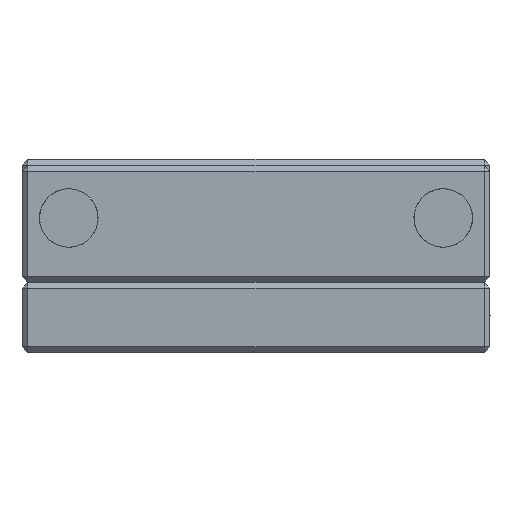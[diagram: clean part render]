
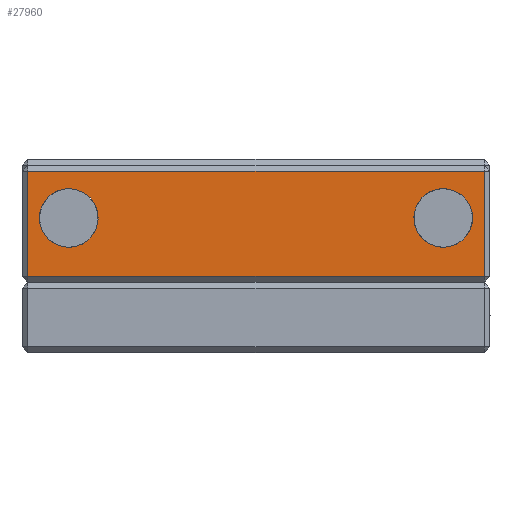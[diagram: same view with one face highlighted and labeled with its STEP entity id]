
A CAD part, left-side view. The second image highlights one B-rep face of the part: STEP entity #27960.
In plain terms, the highlighted planar face has unit normal (-1, 0, 0) as drawn and (1, 0, 0) by its records, which use the part's own axes.
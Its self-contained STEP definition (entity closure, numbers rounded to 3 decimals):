
#798 = CIRCLE ( 'NONE', #5439, 2.5 ) ;
#846 = ORIENTED_EDGE ( 'NONE', *, *, #34027, .F. ) ;
#1907 = LINE ( 'NONE', #41379, #13199 ) ;
#3244 = CARTESIAN_POINT ( 'NONE',  ( 7.5, -16., 8. ) ) ;
#3543 = LINE ( 'NONE', #17244, #40970 ) ;
#3885 = VECTOR ( 'NONE', #33720, 1000. ) ;
#4164 = EDGE_CURVE ( 'NONE', #27125, #31668, #44252, .T. ) ;
#4233 = VERTEX_POINT ( 'NONE', #25929 ) ;
#5218 = DIRECTION ( 'NONE',  ( 0., 0., 1. ) ) ;
#5439 = AXIS2_PLACEMENT_3D ( 'NONE', #46701, #18407, #35875 ) ;
#5658 = EDGE_LOOP ( 'NONE', ( #33536, #40785 ) ) ;
#7109 = CARTESIAN_POINT ( 'NONE',  ( 7.5, -16., 5.5 ) ) ;
#8496 = CARTESIAN_POINT ( 'NONE',  ( 7.5, 19.5, 0.5 ) ) ;
#8748 = ORIENTED_EDGE ( 'NONE', *, *, #27725, .F. ) ;
#9147 = DIRECTION ( 'NONE',  ( -1., 0., 0. ) ) ;
#9546 = ORIENTED_EDGE ( 'NONE', *, *, #24507, .F. ) ;
#10894 = FACE_BOUND ( 'NONE', #43526, .T. ) ;
#11075 = EDGE_CURVE ( 'NONE', #4233, #13813, #26014, .T. ) ;
#12686 = AXIS2_PLACEMENT_3D ( 'NONE', #7109, #39598, #14367 ) ;
#12925 = DIRECTION ( 'NONE',  ( 0., 0., 1. ) ) ;
#13128 = VERTEX_POINT ( 'NONE', #20734 ) ;
#13199 = VECTOR ( 'NONE', #24721, 1000. ) ;
#13232 = DIRECTION ( 'NONE',  ( 0., 0., 1. ) ) ;
#13484 = LINE ( 'NONE', #41130, #3885 ) ;
#13761 = CARTESIAN_POINT ( 'NONE',  ( 7.5, -19.5, 9.5 ) ) ;
#13813 = VERTEX_POINT ( 'NONE', #3244 ) ;
#13820 = CARTESIAN_POINT ( 'NONE',  ( 7.5, 19.5, 9.5 ) ) ;
#14237 = EDGE_CURVE ( 'NONE', #13813, #4233, #42725, .T. ) ;
#14367 = DIRECTION ( 'NONE',  ( 0., 0., 1. ) ) ;
#14814 = VERTEX_POINT ( 'NONE', #13761 ) ;
#14859 = FACE_OUTER_BOUND ( 'NONE', #39211, .T. ) ;
#16129 = PLANE ( 'NONE',  #24003 ) ;
#16273 = DIRECTION ( 'NONE',  ( 1., 0., 0. ) ) ;
#17244 = CARTESIAN_POINT ( 'NONE',  ( 7.5, 19.5, 10. ) ) ;
#18407 = DIRECTION ( 'NONE',  ( 1., 0., 0. ) ) ;
#20734 = CARTESIAN_POINT ( 'NONE',  ( 7.5, 16., 8. ) ) ;
#21368 = DIRECTION ( 'NONE',  ( 0., 0., -1. ) ) ;
#23640 = CARTESIAN_POINT ( 'NONE',  ( 7.5, -19.5, 0.5 ) ) ;
#23728 = DIRECTION ( 'NONE',  ( 1., 0., 0. ) ) ;
#24003 = AXIS2_PLACEMENT_3D ( 'NONE', #40376, #9147, #5218 ) ;
#24042 = CARTESIAN_POINT ( 'NONE',  ( 7.5, 16., 3. ) ) ;
#24507 = EDGE_CURVE ( 'NONE', #42831, #13128, #798, .T. ) ;
#24721 = DIRECTION ( 'NONE',  ( 0., 1., 0. ) ) ;
#25052 = VECTOR ( 'NONE', #28152, 1000. ) ;
#25764 = ORIENTED_EDGE ( 'NONE', *, *, #39381, .F. ) ;
#25929 = CARTESIAN_POINT ( 'NONE',  ( 7.5, -16., 3. ) ) ;
#26014 = CIRCLE ( 'NONE', #12686, 2.5 ) ;
#27125 = VERTEX_POINT ( 'NONE', #8496 ) ;
#27725 = EDGE_CURVE ( 'NONE', #43469, #27125, #3543, .T. ) ;
#27960 = ADVANCED_FACE ( 'NONE', ( #10894, #39849, #14859 ), #16129, .F. ) ;
#28028 = ORIENTED_EDGE ( 'NONE', *, *, #4164, .F. ) ;
#28152 = DIRECTION ( 'NONE',  ( 0., -1., 0. ) ) ;
#31668 = VERTEX_POINT ( 'NONE', #23640 ) ;
#33536 = ORIENTED_EDGE ( 'NONE', *, *, #14237, .F. ) ;
#33720 = DIRECTION ( 'NONE',  ( 0., 0., 1. ) ) ;
#33821 = EDGE_CURVE ( 'NONE', #14814, #43469, #1907, .T. ) ;
#34027 = EDGE_CURVE ( 'NONE', #13128, #42831, #42116, .T. ) ;
#35875 = DIRECTION ( 'NONE',  ( 0., 0., 1. ) ) ;
#38597 = ORIENTED_EDGE ( 'NONE', *, *, #33821, .F. ) ;
#39211 = EDGE_LOOP ( 'NONE', ( #28028, #8748, #38597, #25764 ) ) ;
#39381 = EDGE_CURVE ( 'NONE', #31668, #14814, #13484, .T. ) ;
#39598 = DIRECTION ( 'NONE',  ( 1., 0., 0. ) ) ;
#39849 = FACE_BOUND ( 'NONE', #5658, .T. ) ;
#40261 = AXIS2_PLACEMENT_3D ( 'NONE', #41631, #23728, #13232 ) ;
#40376 = CARTESIAN_POINT ( 'NONE',  ( 7.5, -20., 10. ) ) ;
#40395 = AXIS2_PLACEMENT_3D ( 'NONE', #41779, #16273, #12925 ) ;
#40785 = ORIENTED_EDGE ( 'NONE', *, *, #11075, .F. ) ;
#40970 = VECTOR ( 'NONE', #21368, 1000. ) ;
#41130 = CARTESIAN_POINT ( 'NONE',  ( 7.5, -19.5, 10. ) ) ;
#41379 = CARTESIAN_POINT ( 'NONE',  ( 7.5, -20., 9.5 ) ) ;
#41631 = CARTESIAN_POINT ( 'NONE',  ( 7.5, 16., 5.5 ) ) ;
#41779 = CARTESIAN_POINT ( 'NONE',  ( 7.5, -16., 5.5 ) ) ;
#42116 = CIRCLE ( 'NONE', #40261, 2.5 ) ;
#42725 = CIRCLE ( 'NONE', #40395, 2.5 ) ;
#42831 = VERTEX_POINT ( 'NONE', #24042 ) ;
#43469 = VERTEX_POINT ( 'NONE', #13820 ) ;
#43526 = EDGE_LOOP ( 'NONE', ( #846, #9546 ) ) ;
#44252 = LINE ( 'NONE', #45822, #25052 ) ;
#45822 = CARTESIAN_POINT ( 'NONE',  ( 7.5, -20., 0.5 ) ) ;
#46701 = CARTESIAN_POINT ( 'NONE',  ( 7.5, 16., 5.5 ) ) ;
